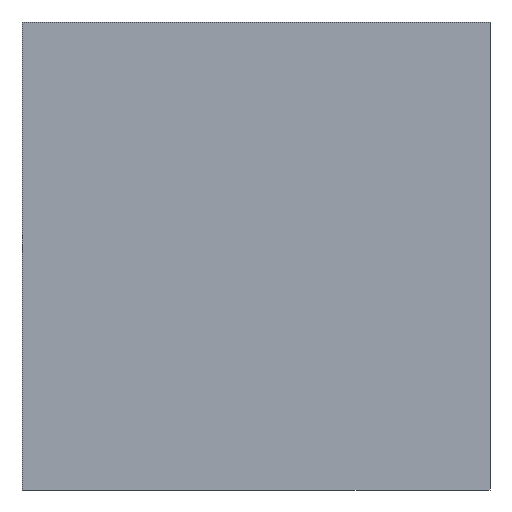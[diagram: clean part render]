
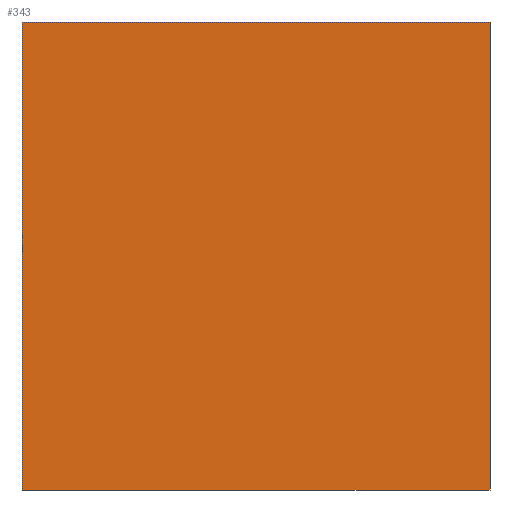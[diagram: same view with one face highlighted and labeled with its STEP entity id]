
A CAD part, front view. The second image highlights one B-rep face of the part: STEP entity #343.
In plain terms, the highlighted planar face has unit normal (0, -1, 0).
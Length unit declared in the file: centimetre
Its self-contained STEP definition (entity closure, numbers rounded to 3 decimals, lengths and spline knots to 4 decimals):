
#4 = DIRECTION ( 'NONE',  ( 1., 0., 0. ) ) ;
#48 = EDGE_CURVE ( 'NONE', #414, #103, #387, .T. ) ;
#56 = CARTESIAN_POINT ( 'NONE',  ( 1000., 0., 1000. ) ) ;
#64 = EDGE_CURVE ( 'NONE', #313, #103, #81, .T. ) ;
#65 = CARTESIAN_POINT ( 'NONE',  ( 0., 0., 0. ) ) ;
#77 = DIRECTION ( 'NONE',  ( 0., 0., -1. ) ) ;
#81 = LINE ( 'NONE', #211, #143 ) ;
#97 = PLANE ( 'NONE',  #198 ) ;
#103 = VERTEX_POINT ( 'NONE', #385 ) ;
#118 = VERTEX_POINT ( 'NONE', #123 ) ;
#123 = CARTESIAN_POINT ( 'NONE',  ( 0., 0., 1000. ) ) ;
#124 = DIRECTION ( 'NONE',  ( 0., 1., 0. ) ) ;
#132 = CARTESIAN_POINT ( 'NONE',  ( 0., 0., 1000. ) ) ;
#143 = VECTOR ( 'NONE', #152, 100. ) ;
#149 = EDGE_CURVE ( 'NONE', #118, #414, #231, .T. ) ;
#152 = DIRECTION ( 'NONE',  ( 1., 0., 0. ) ) ;
#156 = VECTOR ( 'NONE', #77, 100. ) ;
#161 = CARTESIAN_POINT ( 'NONE',  ( 1000., 0., 1000. ) ) ;
#174 = ORIENTED_EDGE ( 'NONE', *, *, #261, .T. ) ;
#177 = EDGE_LOOP ( 'NONE', ( #333, #243, #205, #174 ) ) ;
#198 = AXIS2_PLACEMENT_3D ( 'NONE', #132, #124, #435 ) ;
#202 = CARTESIAN_POINT ( 'NONE',  ( 0., 0., 1000. ) ) ;
#205 = ORIENTED_EDGE ( 'NONE', *, *, #149, .F. ) ;
#211 = CARTESIAN_POINT ( 'NONE',  ( 0., 0., 0. ) ) ;
#231 = LINE ( 'NONE', #368, #247 ) ;
#243 = ORIENTED_EDGE ( 'NONE', *, *, #48, .F. ) ;
#247 = VECTOR ( 'NONE', #4, 100. ) ;
#261 = EDGE_CURVE ( 'NONE', #118, #313, #371, .T. ) ;
#299 = VECTOR ( 'NONE', #335, 100. ) ;
#313 = VERTEX_POINT ( 'NONE', #65 ) ;
#330 = FACE_OUTER_BOUND ( 'NONE', #177, .T. ) ;
#333 = ORIENTED_EDGE ( 'NONE', *, *, #64, .T. ) ;
#335 = DIRECTION ( 'NONE',  ( 0., 0., -1. ) ) ;
#343 = ADVANCED_FACE ( 'NONE', ( #330 ), #97, .F. ) ;
#368 = CARTESIAN_POINT ( 'NONE',  ( 0., 0., 1000. ) ) ;
#371 = LINE ( 'NONE', #202, #299 ) ;
#385 = CARTESIAN_POINT ( 'NONE',  ( 1000., 0., 0. ) ) ;
#387 = LINE ( 'NONE', #56, #156 ) ;
#414 = VERTEX_POINT ( 'NONE', #161 ) ;
#435 = DIRECTION ( 'NONE',  ( 0., 0., 1. ) ) ;
